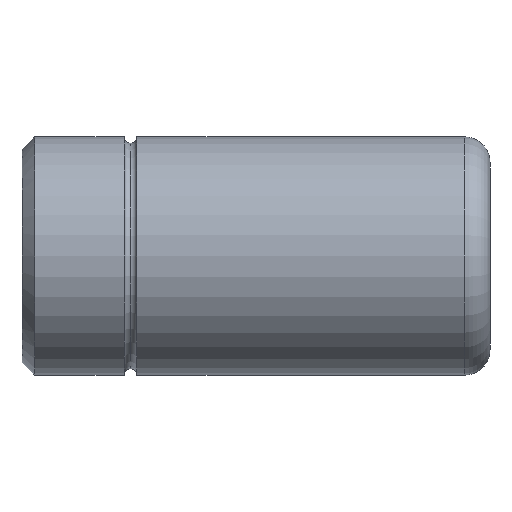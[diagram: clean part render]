
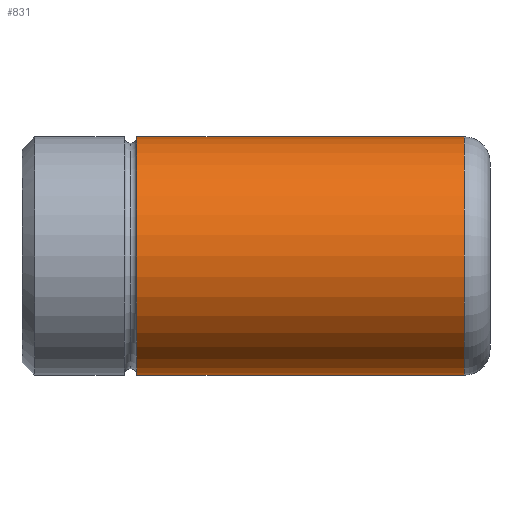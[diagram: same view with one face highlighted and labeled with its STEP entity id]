
A CAD part, front view. The second image highlights one B-rep face of the part: STEP entity #831.
In plain terms, the highlighted cylindrical face has radius 14 mm (diameter 28 mm), a partial arc.
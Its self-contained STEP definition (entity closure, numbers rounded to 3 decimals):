
#647=CARTESIAN_POINT('Vertex',(13.5,0.,14.)) ;
#654=CARTESIAN_POINT('Vertex',(13.5,0.,-14.)) ;
#680=CARTESIAN_POINT('Axis2P3D Location',(13.5,0.,0.)) ;
#684=CARTESIAN_POINT('Vertex',(13.5,-14.,0.)) ;
#687=CARTESIAN_POINT('Axis2P3D Location',(13.5,0.,0.)) ;
#771=CARTESIAN_POINT('Line Origine',(55.,0.,14.)) ;
#775=CARTESIAN_POINT('Vertex',(52.,0.,14.)) ;
#789=CARTESIAN_POINT('Vertex',(52.,0.,-14.)) ;
#792=CARTESIAN_POINT('Line Origine',(55.,0.,-14.)) ;
#806=CARTESIAN_POINT('Axis2P3D Location',(55.,0.,0.)) ;
#811=CARTESIAN_POINT('Axis2P3D Location',(52.,0.,0.)) ;
#815=CARTESIAN_POINT('Vertex',(52.,-14.,0.)) ;
#818=CARTESIAN_POINT('Axis2P3D Location',(52.,0.,0.)) ;
#681=DIRECTION('Axis2P3D Direction',(1.,0.,-0.)) ;
#688=DIRECTION('Axis2P3D Direction',(1.,0.,-0.)) ;
#772=DIRECTION('Vector Direction',(-1.,0.,0.)) ;
#793=DIRECTION('Vector Direction',(-1.,0.,0.)) ;
#807=DIRECTION('Axis2P3D Direction',(-1.,-0.,-0.)) ;
#808=DIRECTION('Axis2P3D XDirection',(0.,0.,-1.)) ;
#812=DIRECTION('Axis2P3D Direction',(-1.,-0.,-0.)) ;
#819=DIRECTION('Axis2P3D Direction',(-1.,-0.,-0.)) ;
#682=AXIS2_PLACEMENT_3D('Circle Axis2P3D',#680,#681,$) ;
#689=AXIS2_PLACEMENT_3D('Circle Axis2P3D',#687,#688,$) ;
#809=AXIS2_PLACEMENT_3D('Cylinder Axis2P3D',#806,#807,#808) ;
#813=AXIS2_PLACEMENT_3D('Circle Axis2P3D',#811,#812,$) ;
#820=AXIS2_PLACEMENT_3D('Circle Axis2P3D',#818,#819,$) ;
#824=ORIENTED_EDGE('',*,*,#796,.T.) ;
#825=ORIENTED_EDGE('',*,*,#817,.F.) ;
#826=ORIENTED_EDGE('',*,*,#822,.F.) ;
#827=ORIENTED_EDGE('',*,*,#777,.T.) ;
#828=ORIENTED_EDGE('',*,*,#691,.T.) ;
#829=ORIENTED_EDGE('',*,*,#686,.T.) ;
#773=VECTOR('Line Direction',#772,1.) ;
#794=VECTOR('Line Direction',#793,1.) ;
#831=ADVANCED_FACE('348-18 x 55',(#830),#810,.T.) ;
#683=CIRCLE('generated circle',#682,14.) ;
#690=CIRCLE('generated circle',#689,14.) ;
#814=CIRCLE('generated circle',#813,14.) ;
#821=CIRCLE('generated circle',#820,14.) ;
#810=CYLINDRICAL_SURFACE('generated cylinder',#809,14.) ;
#686=EDGE_CURVE('',#685,#655,#683,.T.) ;
#691=EDGE_CURVE('',#648,#685,#690,.T.) ;
#777=EDGE_CURVE('',#776,#648,#774,.T.) ;
#796=EDGE_CURVE('',#655,#790,#795,.F.) ;
#817=EDGE_CURVE('',#816,#790,#814,.F.) ;
#822=EDGE_CURVE('',#776,#816,#821,.F.) ;
#823=EDGE_LOOP('',(#824,#825,#826,#827,#828,#829)) ;
#830=FACE_OUTER_BOUND('',#823,.T.) ;
#774=LINE('Line',#771,#773) ;
#795=LINE('Line',#792,#794) ;
#648=VERTEX_POINT('',#647) ;
#655=VERTEX_POINT('',#654) ;
#685=VERTEX_POINT('',#684) ;
#776=VERTEX_POINT('',#775) ;
#790=VERTEX_POINT('',#789) ;
#816=VERTEX_POINT('',#815) ;
